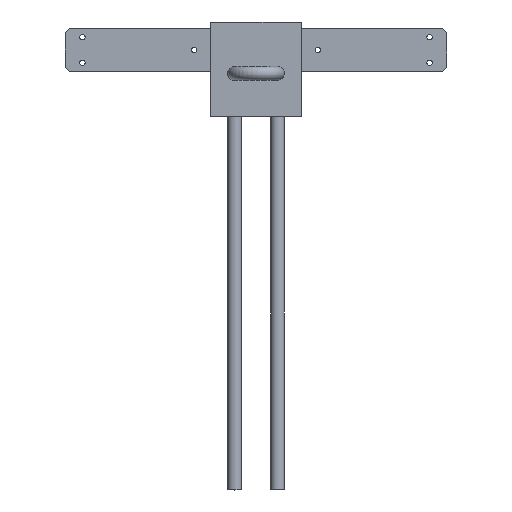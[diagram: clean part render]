
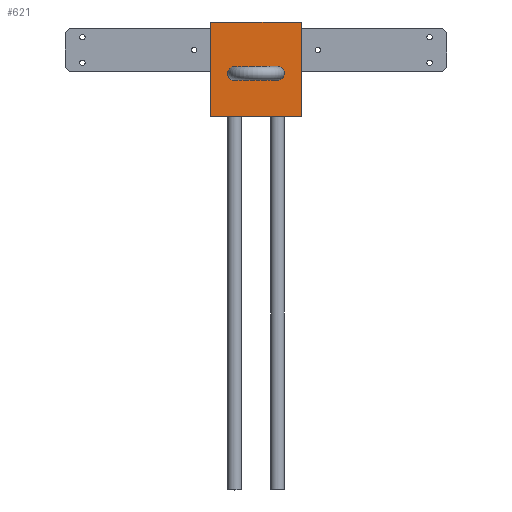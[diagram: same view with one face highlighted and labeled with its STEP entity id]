
A CAD part, top view. The second image highlights one B-rep face of the part: STEP entity #621.
In plain terms, the highlighted planar face has unit normal (0, 0, 1) as drawn and (-1, 0, 0) by its records, which use the part's own axes.
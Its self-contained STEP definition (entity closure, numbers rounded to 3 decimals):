
#88=FACE_BOUND('',#202,.T.);
#89=FACE_BOUND('',#203,.T.);
#116=CIRCLE('',#773,8.);
#118=CIRCLE('',#777,8.);
#154=FACE_OUTER_BOUND('',#201,.T.);
#201=EDGE_LOOP('',(#476,#477,#478,#479));
#202=EDGE_LOOP('',(#480));
#203=EDGE_LOOP('',(#481));
#253=LINE('',#1063,#283);
#258=LINE('',#1072,#288);
#262=LINE('',#1080,#292);
#263=LINE('',#1082,#293);
#283=VECTOR('',#853,10.);
#288=VECTOR('',#860,10.);
#292=VECTOR('',#868,10.);
#293=VECTOR('',#871,10.);
#312=VERTEX_POINT('',#1059);
#314=VERTEX_POINT('',#1062);
#317=VERTEX_POINT('',#1070);
#319=VERTEX_POINT('',#1078);
#325=VERTEX_POINT('',#1098);
#327=VERTEX_POINT('',#1104);
#371=EDGE_CURVE('',#314,#312,#253,.T.);
#376=EDGE_CURVE('',#312,#317,#258,.T.);
#380=EDGE_CURVE('',#317,#319,#262,.T.);
#381=EDGE_CURVE('',#319,#314,#263,.T.);
#387=EDGE_CURVE('',#325,#325,#116,.T.);
#389=EDGE_CURVE('',#327,#327,#118,.T.);
#476=ORIENTED_EDGE('',*,*,#381,.T.);
#477=ORIENTED_EDGE('',*,*,#371,.T.);
#478=ORIENTED_EDGE('',*,*,#376,.T.);
#479=ORIENTED_EDGE('',*,*,#380,.T.);
#480=ORIENTED_EDGE('',*,*,#387,.T.);
#481=ORIENTED_EDGE('',*,*,#389,.T.);
#595=PLANE('',#779);
#621=ADVANCED_FACE('',(#154,#88,#89),#595,.F.);
#773=AXIS2_PLACEMENT_3D('',#1099,#892,#893);
#777=AXIS2_PLACEMENT_3D('',#1105,#900,#901);
#779=AXIS2_PLACEMENT_3D('',#1107,#904,#905);
#853=DIRECTION('',(0.,0.,-1.));
#860=DIRECTION('',(0.,-1.,0.));
#868=DIRECTION('',(0.,0.,1.));
#871=DIRECTION('',(0.,1.,0.));
#892=DIRECTION('center_axis',(1.,0.,0.));
#893=DIRECTION('ref_axis',(0.,0.,-1.));
#900=DIRECTION('center_axis',(1.,0.,0.));
#901=DIRECTION('ref_axis',(0.,0.,-1.));
#904=DIRECTION('center_axis',(1.,0.,0.));
#905=DIRECTION('ref_axis',(0.,0.,-1.));
#1059=CARTESIAN_POINT('',(0.,105.,-110.));
#1062=CARTESIAN_POINT('',(0.,105.,0.));
#1063=CARTESIAN_POINT('',(0.,105.,0.));
#1070=CARTESIAN_POINT('',(0.,0.,-110.));
#1072=CARTESIAN_POINT('',(0.,105.,-110.));
#1078=CARTESIAN_POINT('',(0.,0.,0.));
#1080=CARTESIAN_POINT('',(0.,0.,-110.));
#1082=CARTESIAN_POINT('',(0.,0.,0.));
#1098=CARTESIAN_POINT('',(0.,27.5,-42.));
#1099=CARTESIAN_POINT('Origin',(0.,27.5,-50.));
#1104=CARTESIAN_POINT('',(0.,77.5,-42.));
#1105=CARTESIAN_POINT('Origin',(0.,77.5,-50.));
#1107=CARTESIAN_POINT('Origin',(0.,52.5,-55.));
